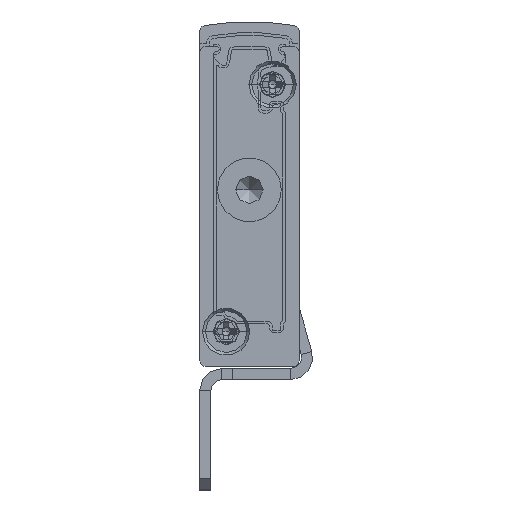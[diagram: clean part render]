
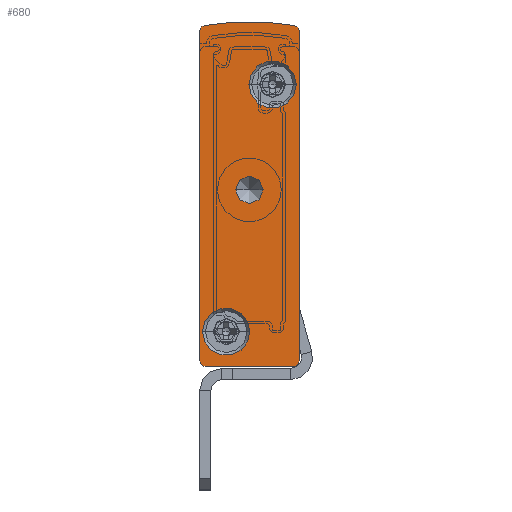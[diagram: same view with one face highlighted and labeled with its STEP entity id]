
A CAD part, front view. The second image highlights one B-rep face of the part: STEP entity #680.
In plain terms, the highlighted planar face has unit normal (0, -1, 0).
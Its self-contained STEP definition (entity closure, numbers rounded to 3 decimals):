
#212 = EDGE_CURVE ( 'NONE', #35072, #10930, #32961, .T. ) ;
#369 = VECTOR ( 'NONE', #24380, 1000. ) ;
#680 = ADVANCED_FACE ( 'NONE', ( #22971, #38171, #9158, #10105 ), #17279, .F. ) ;
#1225 = AXIS2_PLACEMENT_3D ( 'NONE', #9271, #27224, #39442 ) ;
#1488 = VECTOR ( 'NONE', #39386, 1000. ) ;
#1493 = CARTESIAN_POINT ( 'NONE',  ( -5.75, -2.5, 16. ) ) ;
#1647 = DIRECTION ( 'NONE',  ( 0., 1., 0. ) ) ;
#2188 = VERTEX_POINT ( 'NONE', #1493 ) ;
#2468 = EDGE_CURVE ( 'NONE', #33944, #11132, #21350, .T. ) ;
#2898 = DIRECTION ( 'NONE',  ( -1., 0., 0. ) ) ;
#2914 = DIRECTION ( 'NONE',  ( 0., -1., 0. ) ) ;
#3158 = CARTESIAN_POINT ( 'NONE',  ( -4.5, -2.5, 7.592 ) ) ;
#3537 = CARTESIAN_POINT ( 'NONE',  ( -8.5, -2.5, 0. ) ) ;
#3651 = VECTOR ( 'NONE', #14248, 1000. ) ;
#3666 = VERTEX_POINT ( 'NONE', #19745 ) ;
#4043 = ORIENTED_EDGE ( 'NONE', *, *, #12786, .F. ) ;
#4209 = DIRECTION ( 'NONE',  ( 0., 1., 0. ) ) ;
#4372 = DIRECTION ( 'NONE',  ( -1., 0., 0. ) ) ;
#4489 = AXIS2_PLACEMENT_3D ( 'NONE', #14978, #36160, #39223 ) ;
#4492 = CIRCLE ( 'NONE', #1225, 1.25 ) ;
#4576 = EDGE_CURVE ( 'NONE', #4707, #9904, #8805, .T. ) ;
#4707 = VERTEX_POINT ( 'NONE', #32968 ) ;
#4830 = ORIENTED_EDGE ( 'NONE', *, *, #29822, .T. ) ;
#5584 = AXIS2_PLACEMENT_3D ( 'NONE', #26781, #18248, #39527 ) ;
#5629 = CARTESIAN_POINT ( 'NONE',  ( -0.25, -2.5, 25.55 ) ) ;
#5817 = CIRCLE ( 'NONE', #10437, 0.5 ) ;
#6654 = ORIENTED_EDGE ( 'NONE', *, *, #36086, .T. ) ;
#7263 = DIRECTION ( 'NONE',  ( -1., 0., 0. ) ) ;
#7401 = VERTEX_POINT ( 'NONE', #27014 ) ;
#7675 = CARTESIAN_POINT ( 'NONE',  ( -8.5, -2.5, 0.5 ) ) ;
#8805 = CIRCLE ( 'NONE', #27565, 0.5 ) ;
#9158 = FACE_OUTER_BOUND ( 'NONE', #19013, .T. ) ;
#9271 = CARTESIAN_POINT ( 'NONE',  ( -4.5, -2.5, 16. ) ) ;
#9349 = CARTESIAN_POINT ( 'NONE',  ( -0.408, -2.5, 30.893 ) ) ;
#9639 = LINE ( 'NONE', #26769, #1488 ) ;
#9904 = VERTEX_POINT ( 'NONE', #28254 ) ;
#9950 = EDGE_CURVE ( 'NONE', #18506, #13203, #10156, .T. ) ;
#10105 = FACE_BOUND ( 'NONE', #25823, .T. ) ;
#10156 = CIRCLE ( 'NONE', #24645, 2.15 ) ;
#10437 = AXIS2_PLACEMENT_3D ( 'NONE', #7675, #1647, #10715 ) ;
#10520 = ORIENTED_EDGE ( 'NONE', *, *, #16850, .F. ) ;
#10636 = CARTESIAN_POINT ( 'NONE',  ( -6.6, -2.5, 3.15 ) ) ;
#10715 = DIRECTION ( 'NONE',  ( -1., 0., 0. ) ) ;
#10913 = EDGE_CURVE ( 'NONE', #10930, #35072, #22190, .T. ) ;
#10930 = VERTEX_POINT ( 'NONE', #5629 ) ;
#11132 = VERTEX_POINT ( 'NONE', #36711 ) ;
#12786 = EDGE_CURVE ( 'NONE', #9904, #33606, #32399, .T. ) ;
#13164 = CARTESIAN_POINT ( 'NONE',  ( -9., -2.5, 0.5 ) ) ;
#13182 = LINE ( 'NONE', #26677, #3651 ) ;
#13203 = VERTEX_POINT ( 'NONE', #24677 ) ;
#14248 = DIRECTION ( 'NONE',  ( -1., 0., 0. ) ) ;
#14422 = CARTESIAN_POINT ( 'NONE',  ( 0., -2.5, 30.402 ) ) ;
#14978 = CARTESIAN_POINT ( 'NONE',  ( -2.4, -2.5, 25.55 ) ) ;
#15810 = AXIS2_PLACEMENT_3D ( 'NONE', #23642, #35817, #26698 ) ;
#15988 = VERTEX_POINT ( 'NONE', #3537 ) ;
#16050 = EDGE_LOOP ( 'NONE', ( #37229, #37112 ) ) ;
#16775 = CARTESIAN_POINT ( 'NONE',  ( -0.5, -2.5, 30.402 ) ) ;
#16850 = EDGE_CURVE ( 'NONE', #17546, #4707, #9639, .T. ) ;
#17279 = PLANE ( 'NONE',  #15810 ) ;
#17450 = CIRCLE ( 'NONE', #28574, 1.25 ) ;
#17546 = VERTEX_POINT ( 'NONE', #13164 ) ;
#18248 = DIRECTION ( 'NONE',  ( 0., -1., 0. ) ) ;
#18275 = CIRCLE ( 'NONE', #29857, 0.5 ) ;
#18506 = VERTEX_POINT ( 'NONE', #19571 ) ;
#18597 = ORIENTED_EDGE ( 'NONE', *, *, #2468, .F. ) ;
#18863 = ORIENTED_EDGE ( 'NONE', *, *, #32584, .F. ) ;
#19013 = EDGE_LOOP ( 'NONE', ( #36005, #10520, #39157, #33792, #18863, #18597, #26387, #4043 ) ) ;
#19571 = CARTESIAN_POINT ( 'NONE',  ( -4.45, -2.5, 3.15 ) ) ;
#19745 = CARTESIAN_POINT ( 'NONE',  ( -3.25, -2.5, 16. ) ) ;
#21020 = AXIS2_PLACEMENT_3D ( 'NONE', #34323, #4209, #22275 ) ;
#21350 = LINE ( 'NONE', #27064, #369 ) ;
#21376 = CARTESIAN_POINT ( 'NONE',  ( -6.6, -2.5, 3.15 ) ) ;
#22190 = CIRCLE ( 'NONE', #5584, 2.15 ) ;
#22275 = DIRECTION ( 'NONE',  ( -1., 0., 0. ) ) ;
#22431 = ORIENTED_EDGE ( 'NONE', *, *, #212, .F. ) ;
#22971 = FACE_BOUND ( 'NONE', #28705, .T. ) ;
#23642 = CARTESIAN_POINT ( 'NONE',  ( -8.5, -2.5, 30.402 ) ) ;
#23847 = CARTESIAN_POINT ( 'NONE',  ( -4.55, -2.5, 25.55 ) ) ;
#24188 = DIRECTION ( 'NONE',  ( 1., 0., 0. ) ) ;
#24380 = DIRECTION ( 'NONE',  ( 0., 0., -1. ) ) ;
#24645 = AXIS2_PLACEMENT_3D ( 'NONE', #10636, #25959, #35089 ) ;
#24677 = CARTESIAN_POINT ( 'NONE',  ( -8.75, -2.5, 3.15 ) ) ;
#25441 = DIRECTION ( 'NONE',  ( 0., 1., 0. ) ) ;
#25823 = EDGE_LOOP ( 'NONE', ( #6654, #4830 ) ) ;
#25959 = DIRECTION ( 'NONE',  ( 0., -1., 0. ) ) ;
#26007 = EDGE_CURVE ( 'NONE', #7401, #15988, #13182, .T. ) ;
#26387 = ORIENTED_EDGE ( 'NONE', *, *, #31253, .F. ) ;
#26389 = DIRECTION ( 'NONE',  ( 0., 1., 0. ) ) ;
#26677 = CARTESIAN_POINT ( 'NONE',  ( -8.5, -2.5, 0. ) ) ;
#26698 = DIRECTION ( 'NONE',  ( -1., 0., 0. ) ) ;
#26769 = CARTESIAN_POINT ( 'NONE',  ( -9., -2.5, 30.402 ) ) ;
#26781 = CARTESIAN_POINT ( 'NONE',  ( -2.4, -2.5, 25.55 ) ) ;
#27014 = CARTESIAN_POINT ( 'NONE',  ( -0.5, -2.5, 0. ) ) ;
#27064 = CARTESIAN_POINT ( 'NONE',  ( 0., -2.5, 30.402 ) ) ;
#27184 = EDGE_CURVE ( 'NONE', #13203, #18506, #30047, .T. ) ;
#27224 = DIRECTION ( 'NONE',  ( 0., 1., 0. ) ) ;
#27565 = AXIS2_PLACEMENT_3D ( 'NONE', #35262, #26389, #29440 ) ;
#27795 = AXIS2_PLACEMENT_3D ( 'NONE', #21376, #2914, #24188 ) ;
#28254 = CARTESIAN_POINT ( 'NONE',  ( -8.592, -2.5, 30.893 ) ) ;
#28510 = ORIENTED_EDGE ( 'NONE', *, *, #10913, .F. ) ;
#28574 = AXIS2_PLACEMENT_3D ( 'NONE', #34440, #25441, #7263 ) ;
#28705 = EDGE_LOOP ( 'NONE', ( #28510, #22431 ) ) ;
#29133 = AXIS2_PLACEMENT_3D ( 'NONE', #3158, #33146, #2898 ) ;
#29440 = DIRECTION ( 'NONE',  ( -1., 0., 0. ) ) ;
#29822 = EDGE_CURVE ( 'NONE', #3666, #2188, #4492, .T. ) ;
#29857 = AXIS2_PLACEMENT_3D ( 'NONE', #16775, #31946, #4372 ) ;
#30047 = CIRCLE ( 'NONE', #27795, 2.15 ) ;
#31253 = EDGE_CURVE ( 'NONE', #33606, #33944, #18275, .T. ) ;
#31946 = DIRECTION ( 'NONE',  ( 0., 1., 0. ) ) ;
#32399 = CIRCLE ( 'NONE', #29133, 23.658 ) ;
#32584 = EDGE_CURVE ( 'NONE', #11132, #7401, #34714, .T. ) ;
#32961 = CIRCLE ( 'NONE', #4489, 2.15 ) ;
#32968 = CARTESIAN_POINT ( 'NONE',  ( -9., -2.5, 30.402 ) ) ;
#33146 = DIRECTION ( 'NONE',  ( 0., 1., 0. ) ) ;
#33606 = VERTEX_POINT ( 'NONE', #9349 ) ;
#33792 = ORIENTED_EDGE ( 'NONE', *, *, #26007, .F. ) ;
#33944 = VERTEX_POINT ( 'NONE', #14422 ) ;
#34323 = CARTESIAN_POINT ( 'NONE',  ( -0.5, -2.5, 0.5 ) ) ;
#34440 = CARTESIAN_POINT ( 'NONE',  ( -4.5, -2.5, 16. ) ) ;
#34714 = CIRCLE ( 'NONE', #21020, 0.5 ) ;
#35072 = VERTEX_POINT ( 'NONE', #23847 ) ;
#35089 = DIRECTION ( 'NONE',  ( 1., 0., 0. ) ) ;
#35262 = CARTESIAN_POINT ( 'NONE',  ( -8.5, -2.5, 30.402 ) ) ;
#35754 = EDGE_CURVE ( 'NONE', #15988, #17546, #5817, .T. ) ;
#35817 = DIRECTION ( 'NONE',  ( 0., 1., 0. ) ) ;
#36005 = ORIENTED_EDGE ( 'NONE', *, *, #4576, .F. ) ;
#36086 = EDGE_CURVE ( 'NONE', #2188, #3666, #17450, .T. ) ;
#36160 = DIRECTION ( 'NONE',  ( 0., -1., 0. ) ) ;
#36711 = CARTESIAN_POINT ( 'NONE',  ( 0., -2.5, 0.5 ) ) ;
#37112 = ORIENTED_EDGE ( 'NONE', *, *, #27184, .F. ) ;
#37229 = ORIENTED_EDGE ( 'NONE', *, *, #9950, .F. ) ;
#38171 = FACE_BOUND ( 'NONE', #16050, .T. ) ;
#39157 = ORIENTED_EDGE ( 'NONE', *, *, #35754, .F. ) ;
#39223 = DIRECTION ( 'NONE',  ( 1., 0., 0. ) ) ;
#39386 = DIRECTION ( 'NONE',  ( 0., 0., 1. ) ) ;
#39442 = DIRECTION ( 'NONE',  ( -1., 0., 0. ) ) ;
#39527 = DIRECTION ( 'NONE',  ( 1., 0., 0. ) ) ;
